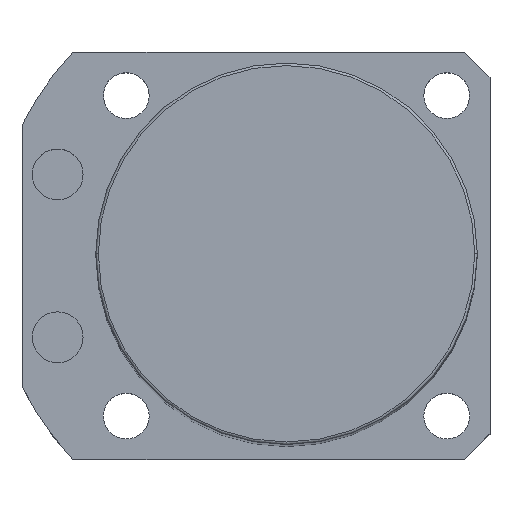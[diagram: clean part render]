
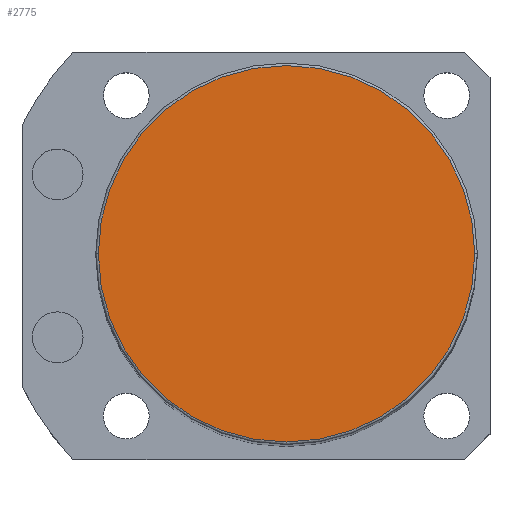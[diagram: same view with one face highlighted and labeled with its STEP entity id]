
A CAD part, top view. The second image highlights one B-rep face of the part: STEP entity #2775.
In plain terms, the highlighted planar face has unit normal (0, 0, 1).
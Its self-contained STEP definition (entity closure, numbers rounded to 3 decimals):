
#295 = ORIENTED_EDGE ( 'NONE', *, *, #2055, .T. ) ;
#374 = EDGE_CURVE ( 'NONE', #955, #870, #1435, .T. ) ;
#377 = AXIS2_PLACEMENT_3D ( 'NONE', #580, #1261, #2798 ) ;
#580 = CARTESIAN_POINT ( 'NONE',  ( 0., 0., 250.5 ) ) ;
#594 = CARTESIAN_POINT ( 'NONE',  ( -37., 0., 250.5 ) ) ;
#870 = VERTEX_POINT ( 'NONE', #594 ) ;
#955 = VERTEX_POINT ( 'NONE', #2803 ) ;
#1055 = FACE_OUTER_BOUND ( 'NONE', #1630, .T. ) ;
#1261 = DIRECTION ( 'NONE',  ( 0., 0., 1. ) ) ;
#1348 = CIRCLE ( 'NONE', #2823, 37. ) ;
#1430 = CARTESIAN_POINT ( 'NONE',  ( 0., 0., 250.5 ) ) ;
#1435 = CIRCLE ( 'NONE', #377, 37. ) ;
#1451 = DIRECTION ( 'NONE',  ( 0., 0., 1. ) ) ;
#1630 = EDGE_LOOP ( 'NONE', ( #2760, #295 ) ) ;
#2055 = EDGE_CURVE ( 'NONE', #870, #955, #1348, .T. ) ;
#2088 = DIRECTION ( 'NONE',  ( 1., 0., 0. ) ) ;
#2424 = DIRECTION ( 'NONE',  ( 0., 0., 1. ) ) ;
#2435 = DIRECTION ( 'NONE',  ( 1., 0., 0. ) ) ;
#2464 = CARTESIAN_POINT ( 'NONE',  ( 0., 0., 250.5 ) ) ;
#2760 = ORIENTED_EDGE ( 'NONE', *, *, #374, .T. ) ;
#2771 = PLANE ( 'NONE',  #2845 ) ;
#2775 = ADVANCED_FACE ( 'NONE', ( #1055 ), #2771, .T. ) ;
#2798 = DIRECTION ( 'NONE',  ( 1., 0., 0. ) ) ;
#2803 = CARTESIAN_POINT ( 'NONE',  ( 37., 0., 250.5 ) ) ;
#2823 = AXIS2_PLACEMENT_3D ( 'NONE', #2464, #2424, #2435 ) ;
#2845 = AXIS2_PLACEMENT_3D ( 'NONE', #1430, #1451, #2088 ) ;
